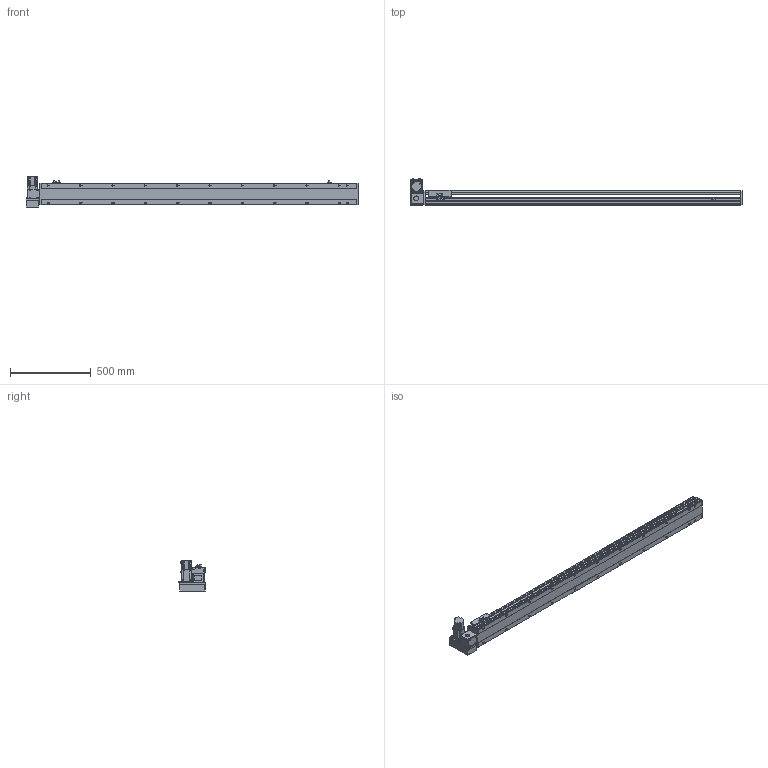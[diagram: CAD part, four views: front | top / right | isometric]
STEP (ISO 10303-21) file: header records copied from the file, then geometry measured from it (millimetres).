
FILE_DESCRIPTION(/* description */ ('STEP AP214'),/* implementation_level */ '2;1');
FILE_NAME(/* name */ 'PBS140S-P40-S1700-LU-T40-C1-N(0)',/* time_stamp */ '2022-06-09T02:35:12+02:00',/* author */ ('License CC BY-ND 4.0'),/* organization */ ('CADENAS'),/* preprocessor_version */ 'ST-DEVELOPER v18.102',/* originating_system */ 'PARTsolutions',/* authorisation */ ' ');
FILE_SCHEMA (('AUTOMOTIVE_DESIGN {1 0 10303 214 3 1 1}'));
Length unit declared in the file: millimetre
Products named in the file (7): PBS140S-P40-S1700-LU-T40-C1-N(0); PBS140S_sensor; PBS140S_plant; PBS140S_sliser; T40-p1; PBS140ST-LU_motors; PBS140S-S1700()_body
Assembly tree (8 placements, depth 2):
  PBS140S-P40-S1700-LU-T40-C1-N(0)
    PBS140S_sensor  x3
    PBS140S_plant
    PBS140S_sliser
    T40-p1
    PBS140ST-LU_motors
    PBS140S-S1700()_body
Bounding box: 2054 x 162.5 x 189.7 mm (x, y, z)
Volume: 10225450.2 mm3; surface area: 1741370.8 mm2
Topology: 8 solids, 8 shells, 1147 faces, 3031 edges, 1983 vertices
Faces by surface type: plane 720, cylinder 369, cone 48, sphere 8, torus 2
Full cylindrical faces by diameter (mm): 3.242 x4, 4 x2, 4.134 x4, 4.4 x8, 4.5 x2, 4.8 x4, 4.917 x30, 5.5 x7, 6 x2, 7 x24, 7.5 x8, 8 x12, 8.5 x4, 10.5 x22, 14 x1, 30 x2, 50 x2
Entity records: 32870 total; most frequent: CARTESIAN_POINT 6152, DIRECTION 5558, ORIENTED_EDGE 5242, EDGE_CURVE 2621, AXIS2_PLACEMENT_3D 1949, VERTEX_POINT 1825, LINE 1660, VECTOR 1660
